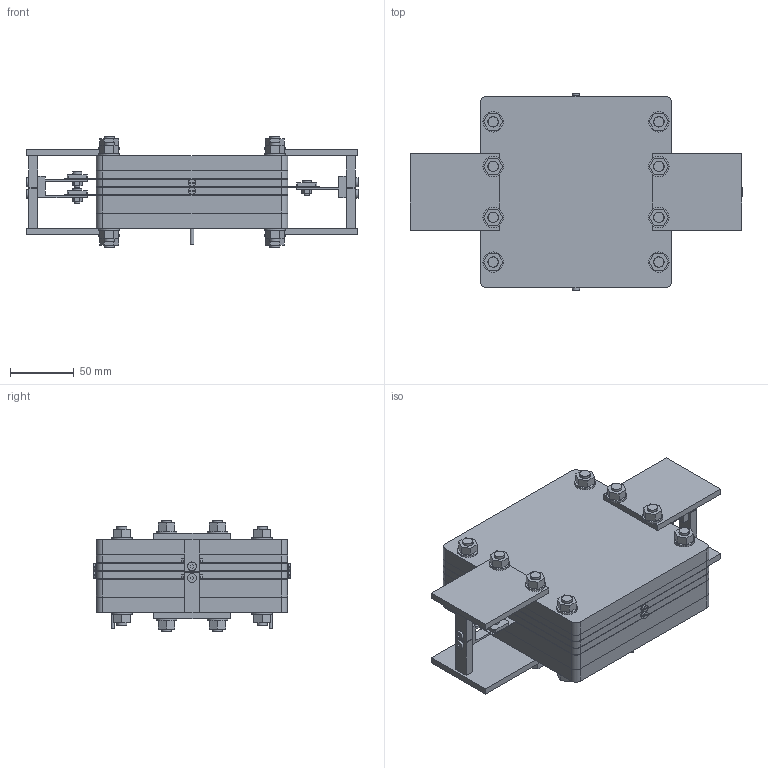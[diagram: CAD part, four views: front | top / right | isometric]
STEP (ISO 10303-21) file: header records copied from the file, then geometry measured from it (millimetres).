
FILE_DESCRIPTION(('FreeCAD Model'),'2;1');
FILE_NAME('Open CASCADE Shape Model','2026-10-30T14:48:58',('Author'),( ''),'Open CASCADE STEP processor 7.8','FreeCAD','Unknown');
FILE_SCHEMA(('AUTOMOTIVE_DESIGN { 1 0 10303 214 1 1 1 1 }'));
Length unit declared in the file: millimetre
Products named in the file (30): 3 片紧凑板框电堆 / Internal parallel manifolds; KP-201 | KP-201 | Front dry endplate with manifold tool access; KP-202 | KP-202 | Front manifold insulator; KS-102-COMP; KP-602 | KP-602 | Cathode precision-film carrier; KP-102 | KP-102 | Cathode electrode; KF-101 | KF-101 | Internal-manifold flow frame KF-101; KS-101-COMP; KH-901 | KH-901 | M4x0.7 nominal cross-drill plug; KH-902 | KH-902 | Cross-drill plug washer; KP-601 | KP-601 | Anode precision-film carrier; KP-101 | KP-101 | Anode electrode; KP-203 | KP-203 | Rear manifold insulator; KP-204 | KP-204 | Rear dry endplate; KB-801 | KB-801 | Front PEEK comb support bracket; KB-802 | KB-802 | Rear PEEK comb support bracket; KB-C3 | KB-C3 | Cathode negative-X copper comb busbar, 3 layers; KB-A3 | KB-A3 | Anode positive-X copper comb busbar, 3 layers; KP-301 | KP-301 | Electrode tab clamp jaw; STD-M4-S10 | STD-M4-S10 | STD-M4-S10; STD-M4-NUT | STD-M4-NUT | STD-M4-NUT; STD-M4-S12 | STD-M4-S12 | STD-M4-S12; STD-M8-ROD-3-PLATE | STD-M8-ROD-3-PLATE | STD-M8-ROD-3-PLATE; STD-M8-WASHER | STD-M8-WASHER | STD-M8-WASHER; STD-M8-NUT | STD-M8-NUT | STD-M8-NUT; STD-M8-ROD-3-SUPPORT | STD-M8-ROD-3-SUPPORT | STD-M8-ROD-3-SUPPORT; STD-LOCATOR-3 | STD-LOCATOR-3 | STD-LOCATOR-3; KP-501 | KP-501 | M6x1 bulkhead connector nut; KP-502 | KP-502 | Tube compression ferrule; KP-503 | KP-503 | Electrolyte tube stub
Assembly tree (103 placements, depth 2):
  3 片紧凑板框电堆 / Internal parallel manifolds
    KP-201 | KP-201 | Front dry endplate with manifold tool access
    KP-202 | KP-202 | Front manifold insulator
    KS-102-COMP  x12
    KP-602 | KP-602 | Cathode precision-film carrier  x2
    KP-102 | KP-102 | Cathode electrode  x2
    KF-101 | KF-101 | Internal-manifold flow frame KF-101  x2
    KS-101-COMP  x4
    KH-901 | KH-901 | M4x0.7 nominal cross-drill plug  x4
    KH-902 | KH-902 | Cross-drill plug washer  x4
    KP-601 | KP-601 | Anode precision-film carrier
    KP-101 | KP-101 | Anode electrode
    KP-203 | KP-203 | Rear manifold insulator
    KP-204 | KP-204 | Rear dry endplate
    KB-801 | KB-801 | Front PEEK comb support bracket  x2
    KB-802 | KB-802 | Rear PEEK comb support bracket  x2
    KB-C3 | KB-C3 | Cathode negative-X copper comb busbar, 3 layers
    KB-A3 | KB-A3 | Anode positive-X copper comb busbar, 3 layers
    KP-301 | KP-301 | Electrode tab clamp jaw  x3
    STD-M4-S10 | STD-M4-S10 | STD-M4-S10  x3
    STD-M4-NUT | STD-M4-NUT | STD-M4-NUT  x3
    STD-M4-S12 | STD-M4-S12 | STD-M4-S12  x4
    STD-M8-ROD-3-PLATE | STD-M8-ROD-3-PLATE | STD-M8-ROD-3-PLATE  x4
    STD-M8-WASHER | STD-M8-WASHER | STD-M8-WASHER  x16
    STD-M8-NUT | STD-M8-NUT | STD-M8-NUT  x16
    STD-M8-ROD-3-SUPPORT | STD-M8-ROD-3-SUPPORT | STD-M8-ROD-3-SUPPORT  x4
    STD-LOCATOR-3 | STD-LOCATOR-3 | STD-LOCATOR-3  x2
    KP-501 | KP-501 | M6x1 bulkhead connector nut  x2
    KP-502 | KP-502 | Tube compression ferrule  x2
    KP-503 | KP-503 | Electrolyte tube stub  x2
Bounding box: 260.4 x 154.6 x 87.25 mm (x, y, z)
Volume: 1363161.9 mm3; surface area: 537178.2 mm2
Topology: 103 solids, 103 shells, 1066 faces, 2418 edges, 1596 vertices
Faces by surface type: plane 622, cylinder 400, revolution 28, extrusion 16
Full cylindrical faces by diameter (mm): 1.6 x2, 2.2 x10, 3 x6, 3.1 x2, 3.2 x16, 3.3 x12, 3.4 x4, 4 x7, 4.2 x7, 4.5 x13, 5.5 x8, 6 x8, 7 x7, 8 x22, 8.2 x16, 8.4 x16, 9 x82, 11.8 x12, 12 x2, 16 x16, 16.2 x12
Entity records: 15785 total; most frequent: DIRECTION 2794, CARTESIAN_POINT 2679, ORIENTED_EDGE 2302, EDGE_CURVE 1151, AXIS2_PLACEMENT_3D 1054, VERTEX_POINT 763, FACE_BOUND 730, EDGE_LOOP 730
